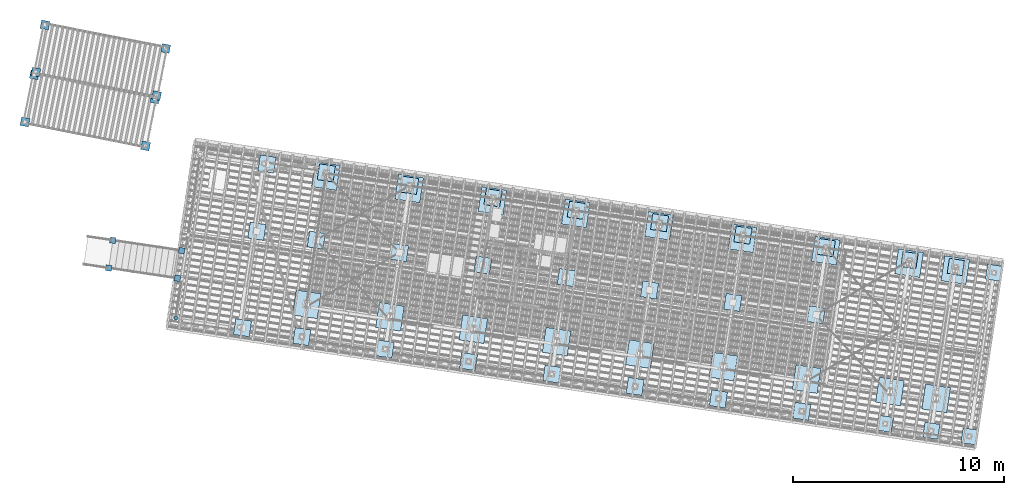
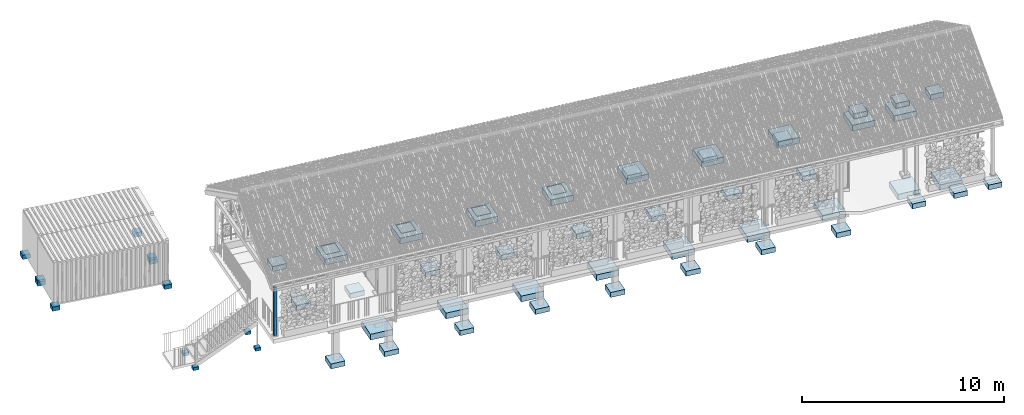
# One storey, part 1 of 131: 60 footings, 1 column, 5 elements without a shape of their own.
"""IFC4 building model written with IfcOpenShell, lengths in metres."""

from ifc_helpers import new_model, si_unit, direction, frame, origin_with_axes, place, context, subcontext, project, spatial, polyline, rectangle, outline, extrude, material, material_profile, profile_set, profile_usage, type_object, element, aggregate, save


model = new_model("IFC4")

# Units and contexts
model_context = context("Model", 3, precision=1e-05, world=origin_with_axes(), true_north=direction((0.0, 1.0)))
body_context = subcontext(model_context, "Body", "Model", "MODEL_VIEW")
ifc_project = project(units=[si_unit("VOLUMEUNIT", "CUBIC_METRE"), si_unit("LENGTHUNIT", "METRE"), si_unit("AREAUNIT", "SQUARE_METRE")], contexts=[model_context])

# Site, building, storey
site_placement = place(None, origin_with_axes())
site = spatial("IfcSite", under=ifc_project, at=site_placement, Name="Lares · Rua das Mercês · artigo 4771")
building_placement = place(site_placement, frame((15.0, 9.7, 14.65), z_axis=(0.0, 0.0, 1.0), x_axis=(0.989015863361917, -0.147809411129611, 0.0)))
building = spatial("IfcBuilding", under=site, at=building_placement, Name="Casa Sobreposta")
storey_placement = place(building_placement, origin_with_axes())
storey = spatial("IfcBuildingStorey", under=building, at=storey_placement, Name="00 · Habitação e estacionamento", Elevation=14.65)

# Footings
ifc_material_1 = material(Name="Betão armado / Stahlbeton", Category="concrete")
footing_1_placement = place(storey_placement, frame((0.0, 0.0, -2.35), z_axis=(0.0, 0.0, 1.0), x_axis=(1.0, 0.0, 0.0)))
element("IfcFooting", 1, at=footing_1_placement, inside=storey, material=ifc_material_1, Name="Casa térrea · sapata", PredefinedType="PAD_FOOTING", context=body_context, shape_type="SweptSolid", body=[
    extrude(outline(polyline([(0.6, -0.48), (0.6, 0.72), (-0.6, 0.72), (-0.6, -0.48), (0.6, -0.48)])), origin_with_axes(), (0.0, 0.0, 1.0), 0.35),
])
footing_2_placement = place(storey_placement, frame((0.0, 0.0, -1.85), z_axis=(0.0, 0.0, 1.0), x_axis=(1.0, 0.0, 0.0)))
element("IfcFooting", 2, at=footing_2_placement, inside=storey, material=ifc_material_1, Name="Casa térrea · sapata", PredefinedType="PAD_FOOTING", context=body_context, shape_type="SweptSolid", body=[
    extrude(outline(polyline([(0.6, 5.68), (0.6, 6.88), (-0.6, 6.88), (-0.6, 5.68), (0.6, 5.68)])), origin_with_axes(), (0.0, 0.0, 1.0), 0.35),
])
footing_3_placement = place(storey_placement, frame((0.0, 0.0, -2.1), z_axis=(0.0, 0.0, 1.0), x_axis=(1.0, 0.0, 0.0)))
element("IfcFooting", 3, at=footing_3_placement, inside=storey, material=ifc_material_1, Name="Casa térrea · sapata", PredefinedType="PAD_FOOTING", context=body_context, shape_type="SweptSolid", body=[
    extrude(outline(polyline([(4.6, -0.48), (4.6, 0.72), (3.4, 0.72), (3.4, -0.48), (4.6, -0.48)])), origin_with_axes(), (0.0, 0.0, 1.0), 0.35),
])
footing_4_placement = place(storey_placement, frame((0.0, 0.0, -1.6), z_axis=(0.0, 0.0, 1.0), x_axis=(1.0, 0.0, 0.0)))
element("IfcFooting", 4, at=footing_4_placement, inside=storey, material=ifc_material_1, Name="Casa térrea · sapata", PredefinedType="PAD_FOOTING", context=body_context, shape_type="SweptSolid", body=[
    extrude(outline(polyline([(4.6, 5.68), (4.6, 6.88), (3.4, 6.88), (3.4, 5.68), (4.6, 5.68)])), origin_with_axes(), (0.0, 0.0, 1.0), 0.35),
])
footing_5_placement = place(storey_placement, frame((0.0, 0.0, -2.1), z_axis=(0.0, 0.0, 1.0), x_axis=(1.0, 0.0, 0.0)))
element("IfcFooting", 5, at=footing_5_placement, inside=storey, material=ifc_material_1, Name="Casa térrea · sapata", PredefinedType="PAD_FOOTING", context=body_context, shape_type="SweptSolid", body=[
    extrude(outline(polyline([(8.6, -0.48), (8.6, 0.72), (7.4, 0.72), (7.4, -0.48), (8.6, -0.48)])), origin_with_axes(), (0.0, 0.0, 1.0), 0.35),
])
footing_6_placement = place(storey_placement, frame((0.0, 0.0, -1.6), z_axis=(0.0, 0.0, 1.0), x_axis=(1.0, 0.0, 0.0)))
element("IfcFooting", 6, at=footing_6_placement, inside=storey, material=ifc_material_1, Name="Casa térrea · sapata", PredefinedType="PAD_FOOTING", context=body_context, shape_type="SweptSolid", body=[
    extrude(outline(polyline([(8.6, 5.68), (8.6, 6.88), (7.4, 6.88), (7.4, 5.68), (8.6, 5.68)])), origin_with_axes(), (0.0, 0.0, 1.0), 0.35),
])
footing_7_placement = place(storey_placement, frame((0.0, 0.0, -1.85), z_axis=(0.0, 0.0, 1.0), x_axis=(1.0, 0.0, 0.0)))
element("IfcFooting", 7, at=footing_7_placement, inside=storey, material=ifc_material_1, Name="Casa térrea · sapata", PredefinedType="PAD_FOOTING", context=body_context, shape_type="SweptSolid", body=[
    extrude(outline(polyline([(12.6, -0.48), (12.6, 0.72), (11.4, 0.72), (11.4, -0.48), (12.6, -0.48)])), origin_with_axes(), (0.0, 0.0, 1.0), 0.35),
])
footing_8_placement = place(storey_placement, frame((0.0, 0.0, -1.35), z_axis=(0.0, 0.0, 1.0), x_axis=(1.0, 0.0, 0.0)))
element("IfcFooting", 8, at=footing_8_placement, inside=storey, material=ifc_material_1, Name="Casa térrea · sapata", PredefinedType="PAD_FOOTING", context=body_context, shape_type="SweptSolid", body=[
    extrude(outline(polyline([(12.6, 5.68), (12.6, 6.88), (11.4, 6.88), (11.4, 5.68), (12.6, 5.68)])), origin_with_axes(), (0.0, 0.0, 1.0), 0.35),
])
footing_9_placement = place(storey_placement, frame((0.0, 0.0, -1.6), z_axis=(0.0, 0.0, 1.0), x_axis=(1.0, 0.0, 0.0)))
element("IfcFooting", 9, at=footing_9_placement, inside=storey, material=ifc_material_1, Name="Casa térrea · sapata", PredefinedType="PAD_FOOTING", context=body_context, shape_type="SweptSolid", body=[
    extrude(outline(polyline([(16.6, -0.48), (16.6, 0.72), (15.4, 0.72), (15.4, -0.48), (16.6, -0.48)])), origin_with_axes(), (0.0, 0.0, 1.0), 0.35),
])
footing_10_placement = place(storey_placement, frame((0.0, 0.0, -1.1), z_axis=(0.0, 0.0, 1.0), x_axis=(1.0, 0.0, 0.0)))
element("IfcFooting", 10, at=footing_10_placement, inside=storey, material=ifc_material_1, Name="Casa térrea · sapata", PredefinedType="PAD_FOOTING", context=body_context, shape_type="SweptSolid", body=[
    extrude(outline(polyline([(16.6, 5.68), (16.6, 6.88), (15.4, 6.88), (15.4, 5.68), (16.6, 5.68)])), origin_with_axes(), (0.0, 0.0, 1.0), 0.35),
])
footing_11_placement = place(storey_placement, frame((0.0, 0.0, -1.6), z_axis=(0.0, 0.0, 1.0), x_axis=(1.0, 0.0, 0.0)))
element("IfcFooting", 11, at=footing_11_placement, inside=storey, material=ifc_material_1, Name="Casa térrea · sapata", PredefinedType="PAD_FOOTING", context=body_context, shape_type="SweptSolid", body=[
    extrude(outline(polyline([(20.6, -0.48), (20.6, 0.72), (19.4, 0.72), (19.4, -0.48), (20.6, -0.48)])), origin_with_axes(), (0.0, 0.0, 1.0), 0.35),
])
footing_12_placement = place(storey_placement, frame((0.0, 0.0, -1.1), z_axis=(0.0, 0.0, 1.0), x_axis=(1.0, 0.0, 0.0)))
element("IfcFooting", 12, at=footing_12_placement, inside=storey, material=ifc_material_1, Name="Casa térrea · sapata", PredefinedType="PAD_FOOTING", context=body_context, shape_type="SweptSolid", body=[
    extrude(outline(polyline([(20.6, 5.68), (20.6, 6.88), (19.4, 6.88), (19.4, 5.68), (20.6, 5.68)])), origin_with_axes(), (0.0, 0.0, 1.0), 0.35),
])
footing_13_placement = place(storey_placement, frame((0.0, 0.0, -1.35), z_axis=(0.0, 0.0, 1.0), x_axis=(1.0, 0.0, 0.0)))
element("IfcFooting", 13, at=footing_13_placement, inside=storey, material=ifc_material_1, Name="Casa térrea · sapata", PredefinedType="PAD_FOOTING", context=body_context, shape_type="SweptSolid", body=[
    extrude(outline(polyline([(24.6, -0.48), (24.6, 0.72), (23.4, 0.72), (23.4, -0.48), (24.6, -0.48)])), origin_with_axes(), (0.0, 0.0, 1.0), 0.35),
])
footing_14_placement = place(storey_placement, frame((0.0, 0.0, -0.95), z_axis=(0.0, 0.0, 1.0), x_axis=(1.0, 0.0, 0.0)))
element("IfcFooting", 14, at=footing_14_placement, inside=storey, material=ifc_material_1, Name="Casa térrea · sapata", PredefinedType="PAD_FOOTING", context=body_context, shape_type="SweptSolid", body=[
    extrude(outline(polyline([(24.6, 5.68), (24.6, 6.88), (23.4, 6.88), (23.4, 5.68), (24.6, 5.68)])), origin_with_axes(), (0.0, 0.0, 1.0), 0.35),
])
footing_15_placement = place(storey_placement, frame((0.0, 0.0, -1.1), z_axis=(0.0, 0.0, 1.0), x_axis=(1.0, 0.0, 0.0)))
element("IfcFooting", 15, at=footing_15_placement, inside=storey, material=ifc_material_1, Name="Casa térrea · sapata", PredefinedType="PAD_FOOTING", context=body_context, shape_type="SweptSolid", body=[
    extrude(outline(polyline([(28.6, -0.48), (28.6, 0.72), (27.4, 0.72), (27.4, -0.48), (28.6, -0.48)])), origin_with_axes(), (0.0, 0.0, 1.0), 0.35),
])
footing_16_placement = place(storey_placement, frame((0.0, 0.0, -0.95), z_axis=(0.0, 0.0, 1.0), x_axis=(1.0, 0.0, 0.0)))
element("IfcFooting", 16, at=footing_16_placement, inside=storey, material=ifc_material_1, Name="Casa térrea · sapata", PredefinedType="PAD_FOOTING", context=body_context, shape_type="SweptSolid", body=[
    extrude(outline(polyline([(28.6, 5.68), (28.6, 6.88), (27.4, 6.88), (27.4, 5.68), (28.6, 5.68)])), origin_with_axes(), (0.0, 0.0, 1.0), 0.35),
])
footing_17_placement = place(storey_placement, frame((0.0, 0.0, -1.1), z_axis=(0.0, 0.0, 1.0), x_axis=(1.0, 0.0, 0.0)))
element("IfcFooting", 17, at=footing_17_placement, inside=storey, material=ifc_material_1, Name="Casa térrea · sapata", PredefinedType="PAD_FOOTING", context=body_context, shape_type="SweptSolid", body=[
    extrude(outline(polyline([(30.82, -0.48), (30.82, 0.72), (29.62, 0.72), (29.62, -0.48), (30.82, -0.48)])), origin_with_axes(), (0.0, 0.0, 1.0), 0.35),
])
footing_18_placement = place(storey_placement, frame((0.0, 0.0, -0.95), z_axis=(0.0, 0.0, 1.0), x_axis=(1.0, 0.0, 0.0)))
element("IfcFooting", 18, at=footing_18_placement, inside=storey, material=ifc_material_1, Name="Casa térrea · sapata", PredefinedType="PAD_FOOTING", context=body_context, shape_type="SweptSolid", body=[
    extrude(outline(polyline([(30.82, 5.68), (30.82, 6.88), (29.62, 6.88), (29.62, 5.68), (30.82, 5.68)])), origin_with_axes(), (0.0, 0.0, 1.0), 0.35),
])

# Stair, footings
stair_placement = place(storey_placement, origin_with_axes())
stair = element("IfcStair", 19, at=stair_placement, inside=storey, Name="Jardim · escada pela fachada poente", PredefinedType="STRAIGHT_RUN_STAIR")
footing_19_placement = place(stair_placement, frame((0.0, 0.0, -2.04767746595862), z_axis=(0.0, 0.0, 1.0), x_axis=(1.0, 0.0, 0.0)))
footing_19 = element("IfcFooting", 20, at=footing_19_placement, material=ifc_material_1, Name="Jardim · apoio", PredefinedType="PAD_FOOTING", context=body_context, shape_type="SweptSolid", body=[
    extrude(outline(polyline([(-6.11, 0.295), (-6.11, 0.575), (-6.39, 0.575), (-6.39, 0.295), (-6.11, 0.295)])), origin_with_axes(), (0.0, 0.0, 1.0), 0.18),
])
footing_20_placement = place(stair_placement, frame((0.0, 0.0, -2.37), z_axis=(0.0, 0.0, 1.0), x_axis=(1.0, 0.0, 0.0)))
footing_20 = element("IfcFooting", 21, at=footing_20_placement, material=ifc_material_1, Name="Jardim · apoio", PredefinedType="PAD_FOOTING", context=body_context, shape_type="SweptSolid", body=[
    extrude(outline(polyline([(-9.41, 0.295), (-9.41, 0.575), (-9.69, 0.575), (-9.69, 0.295), (-9.41, 0.295)])), origin_with_axes(), (0.0, 0.0, 1.0), 0.18),
])
footing_21_placement = place(stair_placement, frame((0.0, 0.0, -1.93553574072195), z_axis=(0.0, 0.0, 1.0), x_axis=(1.0, 0.0, 0.0)))
footing_21 = element("IfcFooting", 22, at=footing_21_placement, material=ifc_material_1, Name="Jardim · apoio", PredefinedType="PAD_FOOTING", context=body_context, shape_type="SweptSolid", body=[
    extrude(outline(polyline([(-6.11, 1.625), (-6.11, 1.905), (-6.39, 1.905), (-6.39, 1.625), (-6.11, 1.625)])), origin_with_axes(), (0.0, 0.0, 1.0), 0.18),
])
footing_22_placement = place(stair_placement, frame((0.0, 0.0, -2.37), z_axis=(0.0, 0.0, 1.0), x_axis=(1.0, 0.0, 0.0)))
footing_22 = element("IfcFooting", 23, at=footing_22_placement, material=ifc_material_1, Name="Jardim · apoio", PredefinedType="PAD_FOOTING", context=body_context, shape_type="SweptSolid", body=[
    extrude(outline(polyline([(-9.41, 1.625), (-9.41, 1.905), (-9.69, 1.905), (-9.69, 1.625), (-9.41, 1.625)])), origin_with_axes(), (0.0, 0.0, 1.0), 0.18),
])
aggregate(stair, [footing_19, footing_20, footing_21, footing_22])

# Assembly, footings
assembly_1_placement = place(storey_placement, origin_with_axes())
assembly_1 = element("IfcElementAssembly", 24, at=assembly_1_placement, inside=storey, Name="Pódio · terraço, casa térrea e cisterna", ObjectType="CISTERN_PODIUM", PredefinedType="USERDEFINED")
footing_23_placement = place(assembly_1_placement, frame((0.0, 0.0, -2.55), z_axis=(0.0, 0.0, 1.0), x_axis=(1.0, 0.0, 0.0)))
footing_23 = element("IfcFooting", 25, at=footing_23_placement, material=ifc_material_1, Name="Pódio suspenso · sapata pontual", PredefinedType="PAD_FOOTING", context=body_context, shape_type="SweptSolid", body=[
    extrude(outline(polyline([(-2.47, -1.81), (-2.47, -1.05), (-3.23, -1.05), (-3.23, -1.81), (-2.47, -1.81)])), origin_with_axes(), (0.0, 0.0, 1.0), 0.3),
])
footing_24_placement = place(assembly_1_placement, frame((0.0, 0.0, -2.05), z_axis=(0.0, 0.0, 1.0), x_axis=(1.0, 0.0, 0.0)))
footing_24 = element("IfcFooting", 26, at=footing_24_placement, material=ifc_material_1, Name="Pódio suspenso · sapata pontual", PredefinedType="PAD_FOOTING", context=body_context, shape_type="SweptSolid", body=[
    extrude(outline(polyline([(-2.47, 2.82), (-2.47, 3.58), (-3.23, 3.58), (-3.23, 2.82), (-2.47, 2.82)])), origin_with_axes(), (0.0, 0.0, 1.0), 0.3),
])
footing_25_placement = place(assembly_1_placement, frame((0.0, 0.0, -1.8), z_axis=(0.0, 0.0, 1.0), x_axis=(1.0, 0.0, 0.0)))
footing_25 = element("IfcFooting", 27, at=footing_25_placement, material=ifc_material_1, Name="Pódio suspenso · sapata pontual", PredefinedType="PAD_FOOTING", context=body_context, shape_type="SweptSolid", body=[
    extrude(outline(polyline([(-2.47, 6.05), (-2.47, 6.81), (-3.23, 6.81), (-3.23, 6.05), (-2.47, 6.05)])), origin_with_axes(), (0.0, 0.0, 1.0), 0.3),
])
footing_26_placement = place(assembly_1_placement, frame((0.0, 0.0, -2.55), z_axis=(0.0, 0.0, 1.0), x_axis=(1.0, 0.0, 0.0)))
footing_26 = element("IfcFooting", 28, at=footing_26_placement, material=ifc_material_1, Name="Pódio suspenso · sapata pontual", PredefinedType="PAD_FOOTING", context=body_context, shape_type="SweptSolid", body=[
    extrude(outline(polyline([(0.38, -1.81), (0.38, -1.05), (-0.38, -1.05), (-0.38, -1.81), (0.38, -1.81)])), origin_with_axes(), (0.0, 0.0, 1.0), 0.3),
])
footing_27_placement = place(assembly_1_placement, frame((0.0, 0.0, -2.05), z_axis=(0.0, 0.0, 1.0), x_axis=(1.0, 0.0, 0.0)))
footing_27 = element("IfcFooting", 29, at=footing_27_placement, material=ifc_material_1, Name="Pódio suspenso · sapata pontual", PredefinedType="PAD_FOOTING", context=body_context, shape_type="SweptSolid", body=[
    extrude(outline(polyline([(0.38, 2.82), (0.38, 3.58), (-0.38, 3.58), (-0.38, 2.82), (0.38, 2.82)])), origin_with_axes(), (0.0, 0.0, 1.0), 0.3),
])
footing_28_placement = place(assembly_1_placement, frame((0.0, 0.0, -1.8), z_axis=(0.0, 0.0, 1.0), x_axis=(1.0, 0.0, 0.0)))
footing_28 = element("IfcFooting", 30, at=footing_28_placement, material=ifc_material_1, Name="Pódio suspenso · sapata pontual", PredefinedType="PAD_FOOTING", context=body_context, shape_type="SweptSolid", body=[
    extrude(outline(polyline([(0.38, 6.05), (0.38, 6.81), (-0.38, 6.81), (-0.38, 6.05), (0.38, 6.05)])), origin_with_axes(), (0.0, 0.0, 1.0), 0.3),
])
footing_29_placement = place(assembly_1_placement, frame((0.0, 0.0, -2.3), z_axis=(0.0, 0.0, 1.0), x_axis=(1.0, 0.0, 0.0)))
footing_29 = element("IfcFooting", 31, at=footing_29_placement, material=ifc_material_1, Name="Pódio suspenso · sapata pontual", PredefinedType="PAD_FOOTING", context=body_context, shape_type="SweptSolid", body=[
    extrude(outline(polyline([(4.38, -1.81), (4.38, -1.05), (3.62, -1.05), (3.62, -1.81), (4.38, -1.81)])), origin_with_axes(), (0.0, 0.0, 1.0), 0.3),
])
footing_30_placement = place(assembly_1_placement, frame((0.0, 0.0, -1.8), z_axis=(0.0, 0.0, 1.0), x_axis=(1.0, 0.0, 0.0)))
footing_30 = element("IfcFooting", 32, at=footing_30_placement, material=ifc_material_1, Name="Pódio suspenso · sapata pontual", PredefinedType="PAD_FOOTING", context=body_context, shape_type="SweptSolid", body=[
    extrude(outline(polyline([(4.38, 2.82), (4.38, 3.58), (3.62, 3.58), (3.62, 2.82), (4.38, 2.82)])), origin_with_axes(), (0.0, 0.0, 1.0), 0.3),
])
footing_31_placement = place(assembly_1_placement, frame((0.0, 0.0, -1.55), z_axis=(0.0, 0.0, 1.0), x_axis=(1.0, 0.0, 0.0)))
footing_31 = element("IfcFooting", 33, at=footing_31_placement, material=ifc_material_1, Name="Pódio suspenso · sapata pontual", PredefinedType="PAD_FOOTING", context=body_context, shape_type="SweptSolid", body=[
    extrude(outline(polyline([(4.38, 6.05), (4.38, 6.81), (3.62, 6.81), (3.62, 6.05), (4.38, 6.05)])), origin_with_axes(), (0.0, 0.0, 1.0), 0.3),
])
footing_32_placement = place(assembly_1_placement, frame((0.0, 0.0, -2.05), z_axis=(0.0, 0.0, 1.0), x_axis=(1.0, 0.0, 0.0)))
footing_32 = element("IfcFooting", 34, at=footing_32_placement, material=ifc_material_1, Name="Pódio suspenso · sapata pontual", PredefinedType="PAD_FOOTING", context=body_context, shape_type="SweptSolid", body=[
    extrude(outline(polyline([(8.38, -1.81), (8.38, -1.05), (7.62, -1.05), (7.62, -1.81), (8.38, -1.81)])), origin_with_axes(), (0.0, 0.0, 1.0), 0.3),
])
footing_33_placement = place(assembly_1_placement, frame((0.0, 0.0, -1.8), z_axis=(0.0, 0.0, 1.0), x_axis=(1.0, 0.0, 0.0)))
footing_33 = element("IfcFooting", 35, at=footing_33_placement, material=ifc_material_1, Name="Pódio suspenso · sapata pontual", PredefinedType="PAD_FOOTING", context=body_context, shape_type="SweptSolid", body=[
    extrude(outline(polyline([(8.38, 2.82), (8.38, 3.58), (7.62, 3.58), (7.62, 2.82), (8.38, 2.82)])), origin_with_axes(), (0.0, 0.0, 1.0), 0.3),
])
footing_34_placement = place(assembly_1_placement, frame((0.0, 0.0, -1.55), z_axis=(0.0, 0.0, 1.0), x_axis=(1.0, 0.0, 0.0)))
footing_34 = element("IfcFooting", 36, at=footing_34_placement, material=ifc_material_1, Name="Pódio suspenso · sapata pontual", PredefinedType="PAD_FOOTING", context=body_context, shape_type="SweptSolid", body=[
    extrude(outline(polyline([(8.38, 6.05), (8.38, 6.81), (7.62, 6.81), (7.62, 6.05), (8.38, 6.05)])), origin_with_axes(), (0.0, 0.0, 1.0), 0.3),
])
footing_35_placement = place(assembly_1_placement, frame((0.0, 0.0, -2.05), z_axis=(0.0, 0.0, 1.0), x_axis=(1.0, 0.0, 0.0)))
footing_35 = element("IfcFooting", 37, at=footing_35_placement, material=ifc_material_1, Name="Pódio suspenso · sapata pontual", PredefinedType="PAD_FOOTING", context=body_context, shape_type="SweptSolid", body=[
    extrude(outline(polyline([(12.38, -1.81), (12.38, -1.05), (11.62, -1.05), (11.62, -1.81), (12.38, -1.81)])), origin_with_axes(), (0.0, 0.0, 1.0), 0.3),
])
footing_36_placement = place(assembly_1_placement, frame((0.0, 0.0, -1.55), z_axis=(0.0, 0.0, 1.0), x_axis=(1.0, 0.0, 0.0)))
footing_36 = element("IfcFooting", 38, at=footing_36_placement, material=ifc_material_1, Name="Pódio suspenso · sapata pontual", PredefinedType="PAD_FOOTING", context=body_context, shape_type="SweptSolid", body=[
    extrude(outline(polyline([(12.38, 2.82), (12.38, 3.58), (11.62, 3.58), (11.62, 2.82), (12.38, 2.82)])), origin_with_axes(), (0.0, 0.0, 1.0), 0.3),
])
footing_37_placement = place(assembly_1_placement, frame((0.0, 0.0, -1.3), z_axis=(0.0, 0.0, 1.0), x_axis=(1.0, 0.0, 0.0)))
footing_37 = element("IfcFooting", 39, at=footing_37_placement, material=ifc_material_1, Name="Pódio suspenso · sapata pontual", PredefinedType="PAD_FOOTING", context=body_context, shape_type="SweptSolid", body=[
    extrude(outline(polyline([(12.38, 6.05), (12.38, 6.81), (11.62, 6.81), (11.62, 6.05), (12.38, 6.05)])), origin_with_axes(), (0.0, 0.0, 1.0), 0.3),
])
footing_38_placement = place(assembly_1_placement, frame((0.0, 0.0, -1.8), z_axis=(0.0, 0.0, 1.0), x_axis=(1.0, 0.0, 0.0)))
footing_38 = element("IfcFooting", 40, at=footing_38_placement, material=ifc_material_1, Name="Pódio suspenso · sapata pontual", PredefinedType="PAD_FOOTING", context=body_context, shape_type="SweptSolid", body=[
    extrude(outline(polyline([(16.38, -1.81), (16.38, -1.05), (15.62, -1.05), (15.62, -1.81), (16.38, -1.81)])), origin_with_axes(), (0.0, 0.0, 1.0), 0.3),
])
footing_39_placement = place(assembly_1_placement, frame((0.0, 0.0, -1.55), z_axis=(0.0, 0.0, 1.0), x_axis=(1.0, 0.0, 0.0)))
footing_39 = element("IfcFooting", 41, at=footing_39_placement, material=ifc_material_1, Name="Pódio suspenso · sapata pontual", PredefinedType="PAD_FOOTING", context=body_context, shape_type="SweptSolid", body=[
    extrude(outline(polyline([(16.38, 2.82), (16.38, 3.58), (15.62, 3.58), (15.62, 2.82), (16.38, 2.82)])), origin_with_axes(), (0.0, 0.0, 1.0), 0.3),
])
footing_40_placement = place(assembly_1_placement, frame((0.0, 0.0, -1.15), z_axis=(0.0, 0.0, 1.0), x_axis=(1.0, 0.0, 0.0)))
footing_40 = element("IfcFooting", 42, at=footing_40_placement, material=ifc_material_1, Name="Pódio suspenso · sapata pontual", PredefinedType="PAD_FOOTING", context=body_context, shape_type="SweptSolid", body=[
    extrude(outline(polyline([(16.38, 6.05), (16.38, 6.81), (15.62, 6.81), (15.62, 6.05), (16.38, 6.05)])), origin_with_axes(), (0.0, 0.0, 1.0), 0.3),
])
footing_41_placement = place(assembly_1_placement, frame((0.0, 0.0, -1.55), z_axis=(0.0, 0.0, 1.0), x_axis=(1.0, 0.0, 0.0)))
footing_41 = element("IfcFooting", 43, at=footing_41_placement, material=ifc_material_1, Name="Pódio suspenso · sapata pontual", PredefinedType="PAD_FOOTING", context=body_context, shape_type="SweptSolid", body=[
    extrude(outline(polyline([(20.38, -1.81), (20.38, -1.05), (19.62, -1.05), (19.62, -1.81), (20.38, -1.81)])), origin_with_axes(), (0.0, 0.0, 1.0), 0.3),
])
footing_42_placement = place(assembly_1_placement, frame((0.0, 0.0, -1.3), z_axis=(0.0, 0.0, 1.0), x_axis=(1.0, 0.0, 0.0)))
footing_42 = element("IfcFooting", 44, at=footing_42_placement, material=ifc_material_1, Name="Pódio suspenso · sapata pontual", PredefinedType="PAD_FOOTING", context=body_context, shape_type="SweptSolid", body=[
    extrude(outline(polyline([(20.38, 2.82), (20.38, 3.58), (19.62, 3.58), (19.62, 2.82), (20.38, 2.82)])), origin_with_axes(), (0.0, 0.0, 1.0), 0.3),
])
footing_43_placement = place(assembly_1_placement, frame((0.0, 0.0, -1.15), z_axis=(0.0, 0.0, 1.0), x_axis=(1.0, 0.0, 0.0)))
footing_43 = element("IfcFooting", 45, at=footing_43_placement, material=ifc_material_1, Name="Pódio suspenso · sapata pontual", PredefinedType="PAD_FOOTING", context=body_context, shape_type="SweptSolid", body=[
    extrude(outline(polyline([(20.38, 6.05), (20.38, 6.81), (19.62, 6.81), (19.62, 6.05), (20.38, 6.05)])), origin_with_axes(), (0.0, 0.0, 1.0), 0.3),
])
footing_44_placement = place(assembly_1_placement, frame((0.0, 0.0, -1.55), z_axis=(0.0, 0.0, 1.0), x_axis=(1.0, 0.0, 0.0)))
footing_44 = element("IfcFooting", 46, at=footing_44_placement, material=ifc_material_1, Name="Pódio suspenso · sapata pontual", PredefinedType="PAD_FOOTING", context=body_context, shape_type="SweptSolid", body=[
    extrude(outline(polyline([(24.38, -1.81), (24.38, -1.05), (23.62, -1.05), (23.62, -1.81), (24.38, -1.81)])), origin_with_axes(), (0.0, 0.0, 1.0), 0.3),
])
footing_45_placement = place(assembly_1_placement, frame((0.0, 0.0, -1.15), z_axis=(0.0, 0.0, 1.0), x_axis=(1.0, 0.0, 0.0)))
footing_45 = element("IfcFooting", 47, at=footing_45_placement, material=ifc_material_1, Name="Pódio suspenso · sapata pontual", PredefinedType="PAD_FOOTING", context=body_context, shape_type="SweptSolid", body=[
    extrude(outline(polyline([(24.38, 2.82), (24.38, 3.58), (23.62, 3.58), (23.62, 2.82), (24.38, 2.82)])), origin_with_axes(), (0.0, 0.0, 1.0), 0.3),
])
footing_46_placement = place(assembly_1_placement, frame((0.0, 0.0, -1.15), z_axis=(0.0, 0.0, 1.0), x_axis=(1.0, 0.0, 0.0)))
footing_46 = element("IfcFooting", 48, at=footing_46_placement, material=ifc_material_1, Name="Pódio suspenso · sapata pontual", PredefinedType="PAD_FOOTING", context=body_context, shape_type="SweptSolid", body=[
    extrude(outline(polyline([(24.38, 6.05), (24.38, 6.81), (23.62, 6.81), (23.62, 6.05), (24.38, 6.05)])), origin_with_axes(), (0.0, 0.0, 1.0), 0.3),
])
aggregate(assembly_1, [footing_23, footing_24, footing_25, footing_26, footing_27, footing_28, footing_29, footing_30, footing_31, footing_32, footing_33, footing_34, footing_35, footing_36, footing_37, footing_38, footing_39, footing_40, footing_41, footing_42, footing_43, footing_44, footing_45, footing_46])

assembly_2_placement = place(storey_placement, origin_with_axes())
assembly_2 = element("IfcElementAssembly", 49, at=assembly_2_placement, inside=storey, Name="Varanda coberta · continuação integral da cobertura", ObjectType="COVERED_PODIUM_BALCONY", PredefinedType="USERDEFINED")
footing_47_placement = place(assembly_2_placement, frame((0.0, 0.0, -0.84005), z_axis=(0.0, 0.0, 1.0), x_axis=(1.0, 0.0, 0.0)))
footing_47 = element("IfcFooting", 50, at=footing_47_placement, material=ifc_material_1, Name="Varanda coberta · sapata no estacionamento", PredefinedType="PAD_FOOTING", context=body_context, shape_type="SweptSolid", body=[
    extrude(outline(polyline([(28.36, -1.79), (28.36, -1.07), (27.64, -1.07), (27.64, -1.79), (28.36, -1.79)])), origin_with_axes(), (0.0, 0.0, 1.0), 0.3),
])
footing_48_placement = place(assembly_2_placement, frame((0.0, 0.0, -0.525649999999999), z_axis=(0.0, 0.0, 1.0), x_axis=(1.0, 0.0, 0.0)))
footing_48 = element("IfcFooting", 51, at=footing_48_placement, material=ifc_material_1, Name="Varanda coberta · sapata no estacionamento", PredefinedType="PAD_FOOTING", context=body_context, shape_type="SweptSolid", body=[
    extrude(outline(polyline([(28.36, 6.07), (28.36, 6.79), (27.64, 6.79), (27.64, 6.07), (28.36, 6.07)])), origin_with_axes(), (0.0, 0.0, 1.0), 0.3),
])
footing_49_placement = place(assembly_2_placement, frame((0.0, 0.0, -0.78455), z_axis=(0.0, 0.0, 1.0), x_axis=(1.0, 0.0, 0.0)))
footing_49 = element("IfcFooting", 52, at=footing_49_placement, material=ifc_material_1, Name="Varanda coberta · sapata no estacionamento", PredefinedType="PAD_FOOTING", context=body_context, shape_type="SweptSolid", body=[
    extrude(outline(polyline([(30.58, -1.79), (30.58, -1.07), (29.86, -1.07), (29.86, -1.79), (30.58, -1.79)])), origin_with_axes(), (0.0, 0.0, 1.0), 0.3),
])
footing_50_placement = place(assembly_2_placement, frame((0.0, 0.0, -0.470149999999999), z_axis=(0.0, 0.0, 1.0), x_axis=(1.0, 0.0, 0.0)))
footing_50 = element("IfcFooting", 53, at=footing_50_placement, material=ifc_material_1, Name="Varanda coberta · sapata no estacionamento", PredefinedType="PAD_FOOTING", context=body_context, shape_type="SweptSolid", body=[
    extrude(outline(polyline([(30.58, 6.07), (30.58, 6.79), (29.86, 6.79), (29.86, 6.07), (30.58, 6.07)])), origin_with_axes(), (0.0, 0.0, 1.0), 0.3),
])
footing_51_placement = place(assembly_2_placement, frame((0.0, 0.0, -0.7388), z_axis=(0.0, 0.0, 1.0), x_axis=(1.0, 0.0, 0.0)))
footing_51 = element("IfcFooting", 54, at=footing_51_placement, material=ifc_material_1, Name="Varanda coberta · sapata no estacionamento", PredefinedType="PAD_FOOTING", context=body_context, shape_type="SweptSolid", body=[
    extrude(outline(polyline([(32.41, -1.79), (32.41, -1.07), (31.69, -1.07), (31.69, -1.79), (32.41, -1.79)])), origin_with_axes(), (0.0, 0.0, 1.0), 0.3),
])
footing_52_placement = place(assembly_2_placement, frame((0.0, 0.0, -0.424399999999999), z_axis=(0.0, 0.0, 1.0), x_axis=(1.0, 0.0, 0.0)))
footing_52 = element("IfcFooting", 55, at=footing_52_placement, material=ifc_material_1, Name="Varanda coberta · sapata no estacionamento", PredefinedType="PAD_FOOTING", context=body_context, shape_type="SweptSolid", body=[
    extrude(outline(polyline([(32.41, 6.07), (32.41, 6.79), (31.69, 6.79), (31.69, 6.07), (32.41, 6.07)])), origin_with_axes(), (0.0, 0.0, 1.0), 0.3),
])

assembly_3_placement = place(storey_placement, frame((-14.4335953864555, 9.04888612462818, 0.0), z_axis=(0.0, 0.0, 1.0), x_axis=(0.999032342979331, -0.0439815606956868, 0.0)))
assembly_3 = element("IfcElementAssembly", 56, at=assembly_3_placement, inside=storey, Name="Contentor existente 1 · 6 m", ObjectType="EXISTING_SHIPPING_CONTAINER", PredefinedType="USERDEFINED")
footing_53_placement = place(assembly_3_placement, frame((0.0, 0.0, -1.55), z_axis=(0.0, 0.0, 1.0), x_axis=(1.0, 0.0, 0.0)))
footing_53 = element("IfcFooting", 57, at=footing_53_placement, material=ifc_material_1, Name="Contentor · bloco de apoio nivelado", PredefinedType="PAD_FOOTING", context=body_context, shape_type="SweptSolid", body=[
    extrude(outline(polyline([(0.28, -0.12), (0.28, 0.28), (-0.12, 0.28), (-0.12, -0.12), (0.28, -0.12)])), origin_with_axes(), (0.0, 0.0, 1.0), 0.25),
])
footing_54_placement = place(assembly_3_placement, frame((0.0, 0.0, -1.55), z_axis=(0.0, 0.0, 1.0), x_axis=(1.0, 0.0, 0.0)))
footing_54 = element("IfcFooting", 58, at=footing_54_placement, material=ifc_material_1, Name="Contentor · bloco de apoio nivelado", PredefinedType="PAD_FOOTING", context=body_context, shape_type="SweptSolid", body=[
    extrude(outline(polyline([(0.28, 2.16), (0.28, 2.56), (-0.12, 2.56), (-0.12, 2.16), (0.28, 2.16)])), origin_with_axes(), (0.0, 0.0, 1.0), 0.25),
])
footing_55_placement = place(assembly_3_placement, frame((0.0, 0.0, -1.55), z_axis=(0.0, 0.0, 1.0), x_axis=(1.0, 0.0, 0.0)))
footing_55 = element("IfcFooting", 59, at=footing_55_placement, material=ifc_material_1, Name="Contentor · bloco de apoio nivelado", PredefinedType="PAD_FOOTING", context=body_context, shape_type="SweptSolid", body=[
    extrude(outline(polyline([(6.12, -0.12), (6.12, 0.28), (5.72, 0.28), (5.72, -0.12), (6.12, -0.12)])), origin_with_axes(), (0.0, 0.0, 1.0), 0.25),
])
footing_56_placement = place(assembly_3_placement, frame((0.0, 0.0, -1.55), z_axis=(0.0, 0.0, 1.0), x_axis=(1.0, 0.0, 0.0)))
footing_56 = element("IfcFooting", 60, at=footing_56_placement, material=ifc_material_1, Name="Contentor · bloco de apoio nivelado", PredefinedType="PAD_FOOTING", context=body_context, shape_type="SweptSolid", body=[
    extrude(outline(polyline([(6.12, 2.16), (6.12, 2.56), (5.72, 2.56), (5.72, 2.16), (6.12, 2.16)])), origin_with_axes(), (0.0, 0.0, 1.0), 0.25),
])
aggregate(assembly_3, [footing_53, footing_54, footing_55, footing_56])

assembly_4_placement = place(storey_placement, frame((-14.5932944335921, 6.63122214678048, 0.0), z_axis=(0.0, 0.0, 1.0), x_axis=(0.998832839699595, -0.0483007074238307, 0.0)))
assembly_4 = element("IfcElementAssembly", 61, at=assembly_4_placement, inside=storey, Name="Contentor existente 2 · 6 m", ObjectType="EXISTING_SHIPPING_CONTAINER", PredefinedType="USERDEFINED")
footing_57_placement = place(assembly_4_placement, frame((0.0, 0.0, -1.55), z_axis=(0.0, 0.0, 1.0), x_axis=(1.0, 0.0, 0.0)))
footing_57 = element("IfcFooting", 62, at=footing_57_placement, material=ifc_material_1, Name="Contentor · bloco de apoio nivelado", PredefinedType="PAD_FOOTING", context=body_context, shape_type="SweptSolid", body=[
    extrude(outline(polyline([(0.28, -0.12), (0.28, 0.28), (-0.12, 0.28), (-0.12, -0.12), (0.28, -0.12)])), origin_with_axes(), (0.0, 0.0, 1.0), 0.25),
])
footing_58_placement = place(assembly_4_placement, frame((0.0, 0.0, -1.55), z_axis=(0.0, 0.0, 1.0), x_axis=(1.0, 0.0, 0.0)))
footing_58 = element("IfcFooting", 63, at=footing_58_placement, material=ifc_material_1, Name="Contentor · bloco de apoio nivelado", PredefinedType="PAD_FOOTING", context=body_context, shape_type="SweptSolid", body=[
    extrude(outline(polyline([(0.28, 2.16), (0.28, 2.56), (-0.12, 2.56), (-0.12, 2.16), (0.28, 2.16)])), origin_with_axes(), (0.0, 0.0, 1.0), 0.25),
])
footing_59_placement = place(assembly_4_placement, frame((0.0, 0.0, -1.55), z_axis=(0.0, 0.0, 1.0), x_axis=(1.0, 0.0, 0.0)))
footing_59 = element("IfcFooting", 64, at=footing_59_placement, material=ifc_material_1, Name="Contentor · bloco de apoio nivelado", PredefinedType="PAD_FOOTING", context=body_context, shape_type="SweptSolid", body=[
    extrude(outline(polyline([(6.12, -0.12), (6.12, 0.28), (5.72, 0.28), (5.72, -0.12), (6.12, -0.12)])), origin_with_axes(), (0.0, 0.0, 1.0), 0.25),
])
footing_60_placement = place(assembly_4_placement, frame((0.0, 0.0, -1.55), z_axis=(0.0, 0.0, 1.0), x_axis=(1.0, 0.0, 0.0)))
footing_60 = element("IfcFooting", 65, at=footing_60_placement, material=ifc_material_1, Name="Contentor · bloco de apoio nivelado", PredefinedType="PAD_FOOTING", context=body_context, shape_type="SweptSolid", body=[
    extrude(outline(polyline([(6.12, 2.16), (6.12, 2.56), (5.72, 2.56), (5.72, 2.16), (6.12, 2.16)])), origin_with_axes(), (0.0, 0.0, 1.0), 0.25),
])
aggregate(assembly_4, [footing_57, footing_58, footing_59, footing_60])

# Column
ifc_material_2 = material(Name="Madeira / Bauholz", Category="wood")
ifc_material_profile = material_profile(ifc_material_2, rectangle(XDim=0.16, YDim=0.16))
ifc_profile_set = profile_set([ifc_material_profile], Name="TIMBER0.160x0.160")
ifc_profile_usage = profile_usage(ifc_profile_set)
column_type = type_object("IfcColumnType", Name="TIMBER0.160x0.160 / timber", PredefinedType="NOTDEFINED", material=ifc_profile_set)
column_placement = place(assembly_2_placement, frame((-6.05, -1.43, -0.015), z_axis=(0.0, 0.0, 1.0), x_axis=(1.0, 0.0, 0.0)))
column = element("IfcColumn", 66, at=column_placement, type_object=column_type, material=ifc_profile_usage, Name="Varanda coberta · pilar", context=body_context, shape_type="SweptSolid", body=[
    extrude(rectangle(XDim=0.16, YDim=0.16), origin_with_axes(), (0.0, 0.0, 1.0), 2.905),
])

aggregate(assembly_2, [column, footing_47, footing_48, footing_49, footing_50, footing_51, footing_52])

save(model, "model.ifc")
